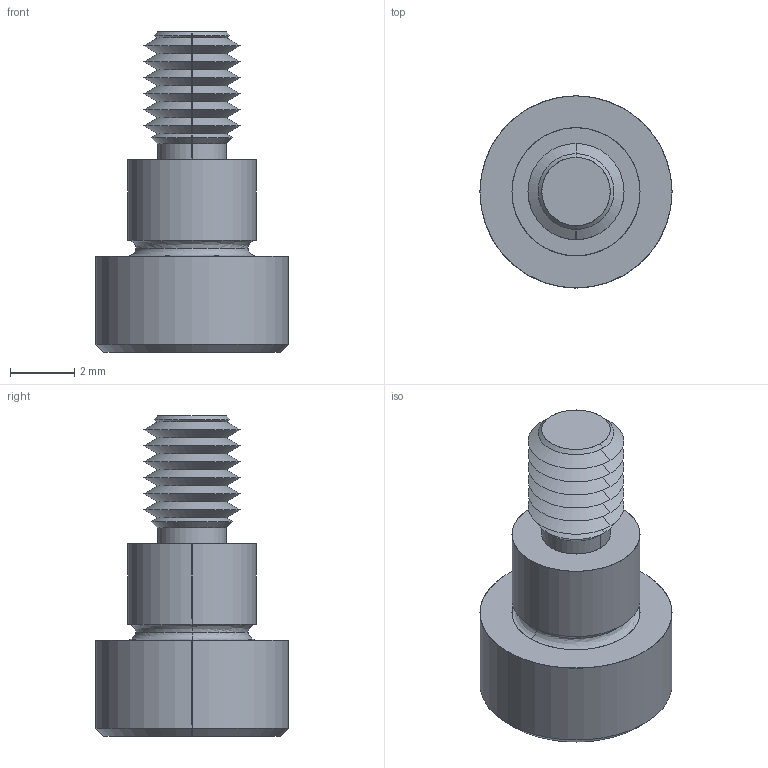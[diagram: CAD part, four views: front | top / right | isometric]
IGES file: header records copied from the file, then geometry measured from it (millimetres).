
Start section: SolidWorks IGES file using analytic representation for surfaces
Global section: file name: C:\Users\IanO\Documents\Temp Folder\GENERAL\SCREW REVISION\P0130_v2\P0130.T5_v2_20220106_IGES\P0130.040-003-T5.igs; native system: SolidWorks 2019; preprocessor: SolidWorks 2019; author: IanO; date: 220106.220417; units: millimetre
Bounding box: 6 x 6 x 10 mm (x, y, z)
Surface area: 222.6 mm2 (no closed solid volume)
Topology: 0 solids, 0 shells, 68 faces, 520 edges, 518 vertices
Faces by surface type: revolution 48, bspline 20
